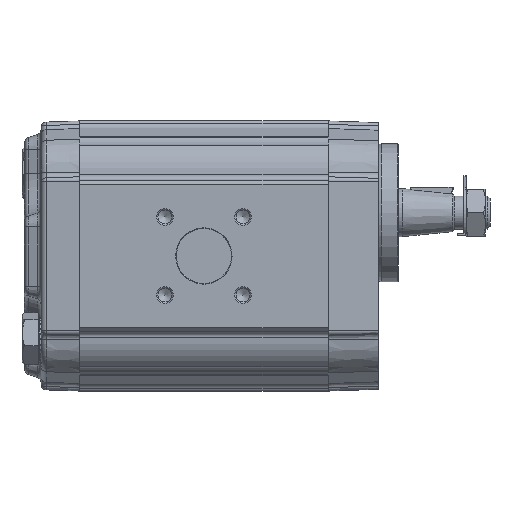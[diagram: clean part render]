
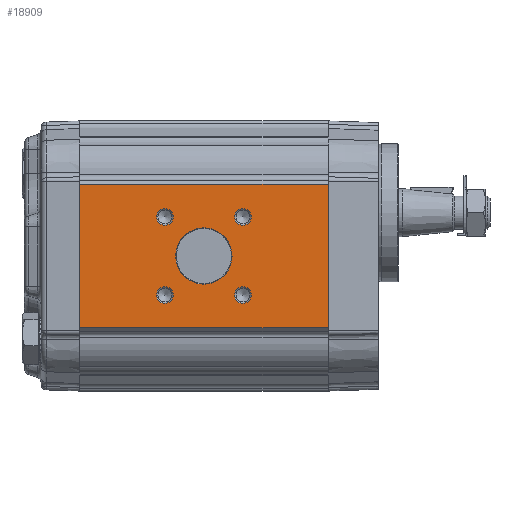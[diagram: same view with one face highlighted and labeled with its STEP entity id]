
A CAD part, left-side view. The second image highlights one B-rep face of the part: STEP entity #18909.
In plain terms, the highlighted planar face has unit normal (-1, 0, 0).
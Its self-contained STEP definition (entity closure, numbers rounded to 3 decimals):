
#722=PLANE('',#19856);
#1064=LINE('',#26557,#1991);
#1065=LINE('',#26560,#1992);
#1066=LINE('',#26562,#1993);
#1067=LINE('',#26564,#1994);
#1991=VECTOR('',#21938,1000.);
#1992=VECTOR('',#21939,1000.);
#1993=VECTOR('',#21940,1000.);
#1994=VECTOR('',#21941,1000.);
#3587=ORIENTED_EDGE('',*,*,#7449,.T.);
#3588=ORIENTED_EDGE('',*,*,#7450,.T.);
#3589=ORIENTED_EDGE('',*,*,#7451,.T.);
#3590=ORIENTED_EDGE('',*,*,#7452,.T.);
#3591=ORIENTED_EDGE('',*,*,#7453,.T.);
#3592=ORIENTED_EDGE('',*,*,#7454,.F.);
#3593=ORIENTED_EDGE('',*,*,#7455,.F.);
#3594=ORIENTED_EDGE('',*,*,#7456,.T.);
#3595=ORIENTED_EDGE('',*,*,#7457,.T.);
#7449=EDGE_CURVE('',#9460,#9460,#10777,.F.);
#7450=EDGE_CURVE('',#9461,#9461,#10778,.F.);
#7451=EDGE_CURVE('',#9462,#9462,#10779,.F.);
#7452=EDGE_CURVE('',#9463,#9463,#10780,.F.);
#7453=EDGE_CURVE('',#9464,#9464,#10781,.F.);
#7454=EDGE_CURVE('',#9465,#9466,#1064,.T.);
#7455=EDGE_CURVE('',#9467,#9465,#1065,.T.);
#7456=EDGE_CURVE('',#9467,#9468,#1066,.T.);
#7457=EDGE_CURVE('',#9468,#9466,#1067,.T.);
#9460=VERTEX_POINT('',#26548);
#9461=VERTEX_POINT('',#26550);
#9462=VERTEX_POINT('',#26552);
#9463=VERTEX_POINT('',#26554);
#9464=VERTEX_POINT('',#26556);
#9465=VERTEX_POINT('',#26558);
#9466=VERTEX_POINT('',#26559);
#9467=VERTEX_POINT('',#26561);
#9468=VERTEX_POINT('',#26563);
#10777=CIRCLE('',#19857,10.2);
#10778=CIRCLE('',#19858,3.);
#10779=CIRCLE('',#19859,3.);
#10780=CIRCLE('',#19860,3.);
#10781=CIRCLE('',#19861,3.);
#11672=EDGE_LOOP('',(#3587));
#11673=EDGE_LOOP('',(#3588));
#11674=EDGE_LOOP('',(#3589));
#11675=EDGE_LOOP('',(#3590));
#11676=EDGE_LOOP('',(#3591));
#11677=EDGE_LOOP('',(#3592,#3593,#3594,#3595));
#12611=FACE_BOUND('',#11672,.T.);
#12612=FACE_BOUND('',#11673,.T.);
#12613=FACE_BOUND('',#11674,.T.);
#12614=FACE_BOUND('',#11675,.T.);
#12615=FACE_BOUND('',#11676,.T.);
#12616=FACE_BOUND('',#11677,.T.);
#18909=ADVANCED_FACE('',(#12611,#12612,#12613,#12614,#12615,#12616),#722,
 .T.);
#19856=AXIS2_PLACEMENT_3D('',#26546,#21926,#21927);
#19857=AXIS2_PLACEMENT_3D('',#26547,#21928,#21929);
#19858=AXIS2_PLACEMENT_3D('',#26549,#21930,#21931);
#19859=AXIS2_PLACEMENT_3D('',#26551,#21932,#21933);
#19860=AXIS2_PLACEMENT_3D('',#26553,#21934,#21935);
#19861=AXIS2_PLACEMENT_3D('',#26555,#21936,#21937);
#21926=DIRECTION('',(-1.,0.,0.));
#21927=DIRECTION('',(0.,0.,1.));
#21928=DIRECTION('',(-1.,0.,0.));
#21929=DIRECTION('',(0.,0.,1.));
#21930=DIRECTION('',(-1.,0.,0.));
#21931=DIRECTION('',(0.,0.,1.));
#21932=DIRECTION('',(-1.,0.,0.));
#21933=DIRECTION('',(0.,0.,1.));
#21934=DIRECTION('',(-1.,0.,0.));
#21935=DIRECTION('',(0.,0.,1.));
#21936=DIRECTION('',(-1.,0.,0.));
#21937=DIRECTION('',(0.,0.,1.));
#21938=DIRECTION('',(0.,0.,-1.));
#21939=DIRECTION('',(0.,-1.,0.));
#21940=DIRECTION('',(0.,0.,-1.));
#21941=DIRECTION('',(0.,-1.,0.));
#26546=CARTESIAN_POINT('',(-45.,90.,25.912));
#26547=CARTESIAN_POINT('',(-45.,45.,0.));
#26548=CARTESIAN_POINT('',(-45.,45.,10.2));
#26549=CARTESIAN_POINT('',(-45.,59.142,-14.142));
#26550=CARTESIAN_POINT('',(-45.,59.142,-11.142));
#26551=CARTESIAN_POINT('',(-45.,30.858,-14.142));
#26552=CARTESIAN_POINT('',(-45.,30.858,-11.142));
#26553=CARTESIAN_POINT('',(-45.,30.858,14.142));
#26554=CARTESIAN_POINT('',(-45.,30.858,17.142));
#26555=CARTESIAN_POINT('',(-45.,59.142,14.142));
#26556=CARTESIAN_POINT('',(-45.,59.142,17.142));
#26557=CARTESIAN_POINT('',(-45.,0.,25.912));
#26558=CARTESIAN_POINT('',(-45.,0.,25.912));
#26559=CARTESIAN_POINT('',(-45.,0.,-25.912));
#26560=CARTESIAN_POINT('',(-45.,90.,25.912));
#26561=CARTESIAN_POINT('',(-45.,90.,25.912));
#26562=CARTESIAN_POINT('',(-45.,90.,25.912));
#26563=CARTESIAN_POINT('',(-45.,90.,-25.912));
#26564=CARTESIAN_POINT('',(-45.,90.,-25.912));
